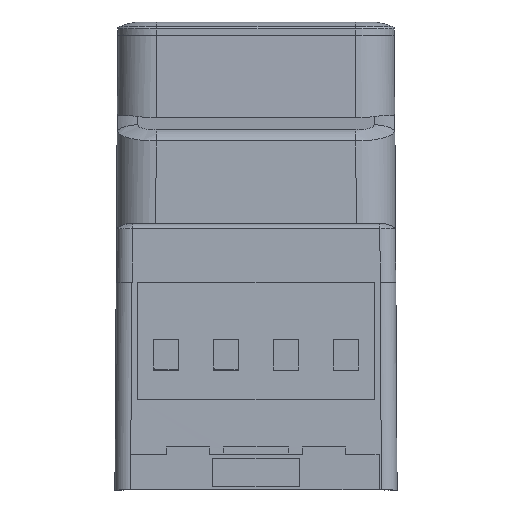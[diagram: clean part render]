
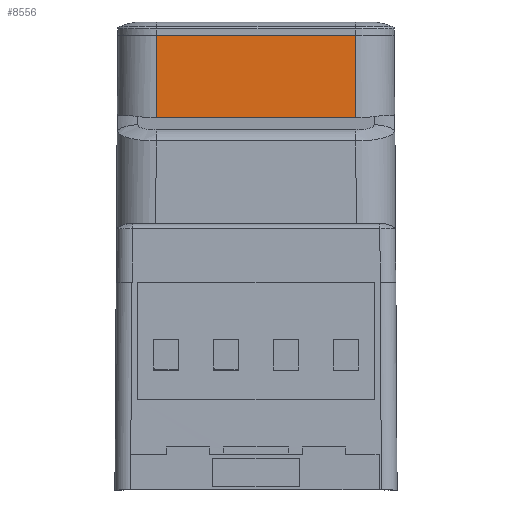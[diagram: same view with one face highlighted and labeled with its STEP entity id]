
A CAD part, left-side view. The second image highlights one B-rep face of the part: STEP entity #8556.
In plain terms, the highlighted planar face has unit normal (-1, 0, 0.005).
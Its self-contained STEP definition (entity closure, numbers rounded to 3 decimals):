
#320 = VECTOR ( 'NONE', #9451, 1000. ) ;
#763 = CARTESIAN_POINT ( 'NONE',  ( -22.671, 12.673, -4.426 ) ) ;
#784 = EDGE_CURVE ( 'NONE', #12478, #19108, #6671, .T. ) ;
#1407 = LINE ( 'NONE', #8971, #19534 ) ;
#1562 = CARTESIAN_POINT ( 'NONE',  ( -22.648, 12.646, 0. ) ) ;
#1868 = VECTOR ( 'NONE', #19369, 1000. ) ;
#2137 = LINE ( 'NONE', #10199, #16349 ) ;
#2220 = ORIENTED_EDGE ( 'NONE', *, *, #3770, .F. ) ;
#2800 = ORIENTED_EDGE ( 'NONE', *, *, #784, .F. ) ;
#3732 = VERTEX_POINT ( 'NONE', #19029 ) ;
#3770 = EDGE_CURVE ( 'NONE', #19108, #7395, #1407, .T. ) ;
#4542 = DIRECTION ( 'NONE',  ( 0.005, 0., 1. ) ) ;
#5251 = ORIENTED_EDGE ( 'NONE', *, *, #18457, .T. ) ;
#5387 = DIRECTION ( 'NONE',  ( 0., 1., 0. ) ) ;
#6671 = LINE ( 'NONE', #14042, #320 ) ;
#7268 = EDGE_CURVE ( 'NONE', #7395, #3732, #2137, .T. ) ;
#7395 = VERTEX_POINT ( 'NONE', #9312 ) ;
#7668 = CARTESIAN_POINT ( 'NONE',  ( -22.648, -12.646, 0. ) ) ;
#8556 = ADVANCED_FACE ( 'NONE', ( #10877 ), #12290, .T. ) ;
#8971 = CARTESIAN_POINT ( 'NONE',  ( -22.671, -12.673, -4.426 ) ) ;
#9312 = CARTESIAN_POINT ( 'NONE',  ( -22.703, -12.71, -10.518 ) ) ;
#9451 = DIRECTION ( 'NONE',  ( 0., -1., 0. ) ) ;
#10199 = CARTESIAN_POINT ( 'NONE',  ( -22.703, -0.059, -10.518 ) ) ;
#10877 = FACE_OUTER_BOUND ( 'NONE', #12547, .T. ) ;
#12290 = PLANE ( 'NONE',  #13112 ) ;
#12478 = VERTEX_POINT ( 'NONE', #1562 ) ;
#12547 = EDGE_LOOP ( 'NONE', ( #18424, #2220, #2800, #5251 ) ) ;
#13112 = AXIS2_PLACEMENT_3D ( 'NONE', #15371, #17191, #4542 ) ;
#13225 = LINE ( 'NONE', #763, #1868 ) ;
#14042 = CARTESIAN_POINT ( 'NONE',  ( -22.648, -17.649, 0. ) ) ;
#15371 = CARTESIAN_POINT ( 'NONE',  ( -22.671, -0.059, -4.503 ) ) ;
#16349 = VECTOR ( 'NONE', #5387, 1000. ) ;
#17191 = DIRECTION ( 'NONE',  ( -1., 0., 0.005 ) ) ;
#18424 = ORIENTED_EDGE ( 'NONE', *, *, #7268, .F. ) ;
#18457 = EDGE_CURVE ( 'NONE', #12478, #3732, #13225, .T. ) ;
#19029 = CARTESIAN_POINT ( 'NONE',  ( -22.703, 12.71, -10.518 ) ) ;
#19108 = VERTEX_POINT ( 'NONE', #7668 ) ;
#19369 = DIRECTION ( 'NONE',  ( -0.005, 0.006, -1. ) ) ;
#19534 = VECTOR ( 'NONE', #19995, 1000. ) ;
#19995 = DIRECTION ( 'NONE',  ( -0.005, -0.006, -1. ) ) ;
